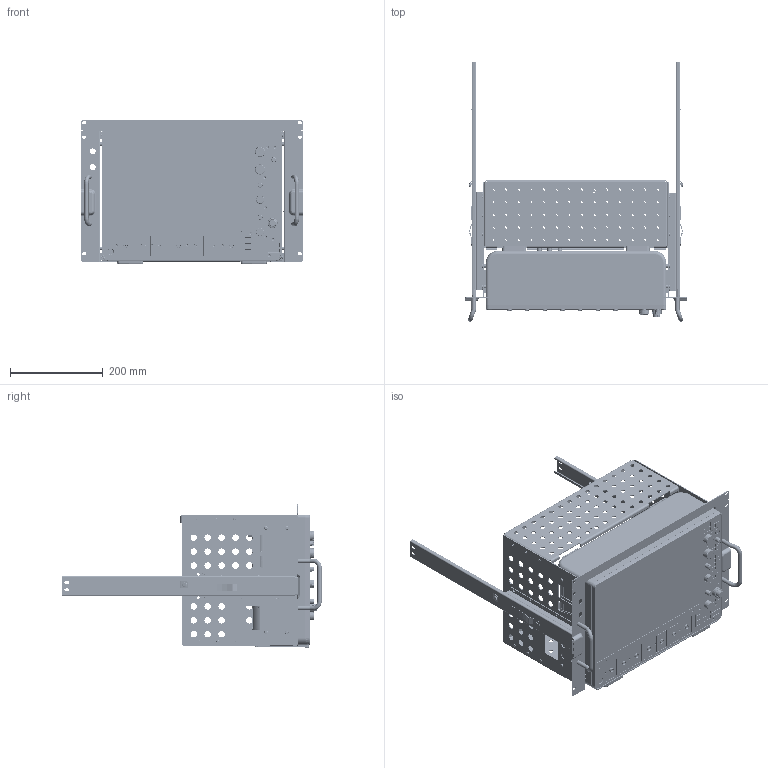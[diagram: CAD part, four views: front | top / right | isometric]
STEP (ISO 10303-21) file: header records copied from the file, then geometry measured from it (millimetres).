
FILE_DESCRIPTION((''),'2;1');
FILE_NAME('0001070282_ASM','2024-01-19T16:26:09',('u604423'),(''),'CREO PARAMETRIC BY PTC INC, 2022284','CREO PARAMETRIC BY PTC INC, 2022284','');
FILE_SCHEMA(('CONFIG_CONTROL_DESIGN','SHAPE_APPEARANCE_LAYERS_GROUPS'));
Products named in the file (183): MSBR-181; MSBR-180; MSBR-179; MSBR-178; MSBR-177; MSBR-176; MSBR-175; MSBR-174; MSBR-173; MSBR-172; MSBR-171; MSBR-170; MSBR-169; MSBR-168; MSBR-167; MSBR-166; MSBR-165; MSBR-164; MSBR-163; MSBR-162; MSBR-161; MSBR-160; MSBR-159; MSBR-158; MSBR-157; MSBR-156; MSBR-155; MSBR-154; MSBR-153; MSBR-152; MSBR-151; MSBR-150; MSBR-149; MSBR-148; MSBR-147; MSBR-146; MSBR-145; MSBR-144; MSBR-143; MSBR-142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
Assembly tree (182 placements, depth 2):
  0001070282_ASM
    MSBR-181
    MSBR-180
    MSBR-179
    MSBR-178
    MSBR-177
    MSBR-176
    MSBR-175
    MSBR-174
    MSBR-173
    MSBR-172
    MSBR-171
    MSBR-170
    MSBR-169
    MSBR-168
    MSBR-167
    MSBR-166
    MSBR-165
    MSBR-164
    MSBR-163
    MSBR-162
    MSBR-161
    MSBR-160
    MSBR-159
    MSBR-158
    MSBR-157
    MSBR-156
    MSBR-155
    MSBR-154
    MSBR-153
    MSBR-152
    MSBR-151
    MSBR-150
    MSBR-149
    MSBR-148
    MSBR-147
    MSBR-146
    MSBR-145
    MSBR-144
    MSBR-143
    MSBR-142
    MSBR-141
    MSBR-140
    MSBR-139
    MSBR-138
    MSBR-137
    MSBR-136
    MSBR-135
    MSBR-134
    MSBR-133
    MSBR-132
    MSBR-131
    MSBR-130
    MSBR-129
    MSBR-128
    MSBR-127
    MSBR-126
    MSBR-125
    MSBR-124
    MSBR-123
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Bounding box: 478.97 x 559.28 x 308.99 mm (x, y, z)
Volume: 33351920 mm3; surface area: 2359546.7 mm2
Topology: 181 solids, 229 shells, 18851 faces, 50136 edges, 32013 vertices
Faces by surface type: plane 10455, cylinder 4764, bspline 1383, cone 1371, torus 526, sphere 332, extrusion 20
Entity records: 716960 total; most frequent: CARTESIAN_POINT 210919, ORIENTED_EDGE 99274, DIRECTION 90300, EDGE_CURVE 49772, VERTEX_POINT 32013, AXIS2_PLACEMENT_3D 30322, VECTOR 29656, LINE 29636
